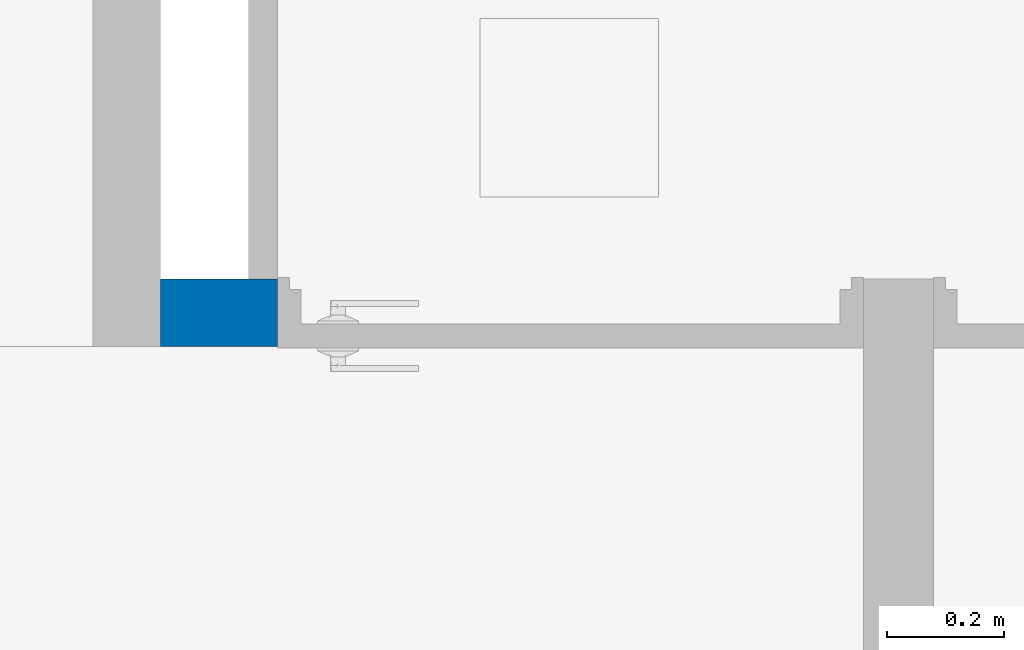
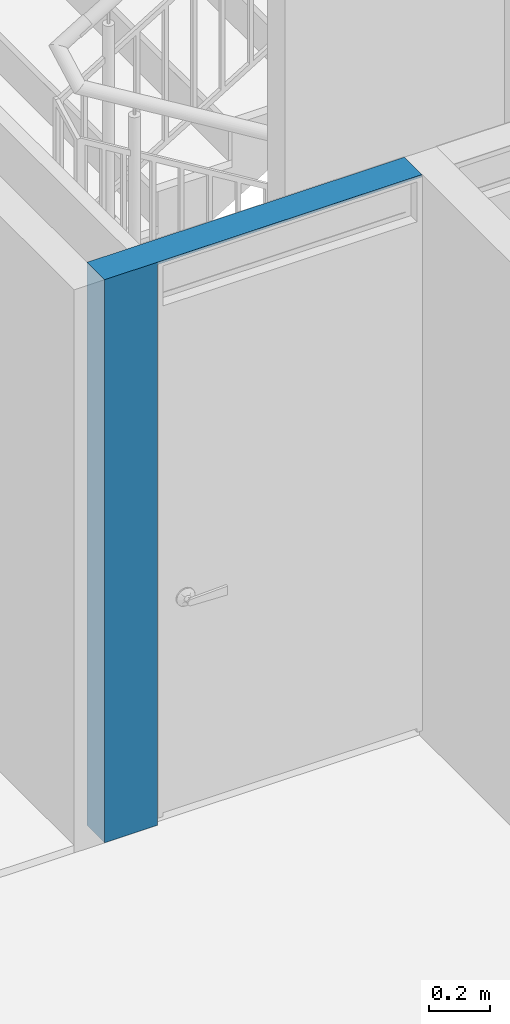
# One storey, part 31 of 51: 1 wall, 1 opening.
"""IFC4 building model written with IfcOpenShell, lengths in metres."""

from ifc_helpers import new_model, entity, si_unit, converted_unit, derived_unit, direction, frame, origin, place, context, subcontext, project, spatial, indexed_curve, outline, extrude, polygons, material, type_object, element, save


model = new_model("IFC4")

# Units and contexts
model_context = context("Model", 3, precision=1e-05, world=origin(), true_north=direction((6.123031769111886e-17, 1.0)))
body_context = subcontext(model_context, "Body", "Model", "MODEL_VIEW")
ifc_project = project(units=[si_unit("LENGTHUNIT", "METRE"), si_unit("AREAUNIT", "SQUARE_METRE"), si_unit("VOLUMEUNIT", "CUBIC_METRE"), converted_unit("PLANEANGLEUNIT", "DEGREE", entity("IfcRatioMeasure", 0.017453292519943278), si_unit("PLANEANGLEUNIT", "RADIAN"), dimensions=[0, 0, 0, 0, 0, 0, 0]), si_unit("MASSUNIT", "GRAM", prefix="KILO"), derived_unit("MASSDENSITYUNIT", [(si_unit("MASSUNIT", "GRAM", prefix="KILO"), 1), (si_unit("LENGTHUNIT", "METRE"), -3)]), derived_unit("IONCONCENTRATIONUNIT", [(si_unit("MASSUNIT", "GRAM", prefix="KILO"), 1), (si_unit("LENGTHUNIT", "METRE"), -3)]), derived_unit("MOMENTOFINERTIAUNIT", [(si_unit("LENGTHUNIT", "METRE"), 4)]), si_unit("TIMEUNIT", "SECOND"), si_unit("FREQUENCYUNIT", "HERTZ"), si_unit("THERMODYNAMICTEMPERATUREUNIT", "DEGREE_CELSIUS"), derived_unit("THERMALTRANSMITTANCEUNIT", [(si_unit("MASSUNIT", "GRAM", prefix="KILO"), 1), (si_unit("THERMODYNAMICTEMPERATUREUNIT", "KELVIN"), -1), (si_unit("TIMEUNIT", "SECOND"), -3)]), derived_unit("THERMALCONDUCTANCEUNIT", [(si_unit("MASSUNIT", "GRAM", prefix="KILO"), 1), (si_unit("THERMODYNAMICTEMPERATUREUNIT", "KELVIN"), -1), (si_unit("TIMEUNIT", "SECOND"), -3), (si_unit("LENGTHUNIT", "METRE"), 1)]), derived_unit("VOLUMETRICFLOWRATEUNIT", [(si_unit("LENGTHUNIT", "METRE"), 3), (si_unit("TIMEUNIT", "SECOND"), -1)]), derived_unit("MASSFLOWRATEUNIT", [(si_unit("MASSUNIT", "GRAM", prefix="KILO"), 1), (si_unit("TIMEUNIT", "SECOND"), -1)]), derived_unit("ROTATIONALFREQUENCYUNIT", [(si_unit("TIMEUNIT", "SECOND"), -1)]), si_unit("ELECTRICCURRENTUNIT", "AMPERE"), si_unit("ELECTRICVOLTAGEUNIT", "VOLT"), si_unit("POWERUNIT", "WATT"), si_unit("FORCEUNIT", "NEWTON", prefix="KILO"), si_unit("ILLUMINANCEUNIT", "LUX"), si_unit("LUMINOUSFLUXUNIT", "LUMEN"), si_unit("LUMINOUSINTENSITYUNIT", "CANDELA"), derived_unit("USERDEFINED", [(si_unit("MASSUNIT", "GRAM", prefix="KILO"), -1), (si_unit("LENGTHUNIT", "METRE"), -2), (si_unit("TIMEUNIT", "SECOND"), 3), (si_unit("LUMINOUSFLUXUNIT", "LUMEN"), 1)]), derived_unit("USERDEFINED", [(si_unit("MASSUNIT", "GRAM", prefix="KILO"), 1), (si_unit("TIMEUNIT", "SECOND"), -3), (si_unit("LENGTHUNIT", "METRE"), 3), (si_unit("ELECTRICCURRENTUNIT", "AMPERE"), -2)]), derived_unit("SOUNDPOWERUNIT", [(si_unit("MASSUNIT", "GRAM", prefix="KILO"), 1), (si_unit("TIMEUNIT", "SECOND"), -3), (si_unit("LENGTHUNIT", "METRE"), 2)]), derived_unit("SOUNDPRESSUREUNIT", [(si_unit("MASSUNIT", "GRAM", prefix="KILO"), 1), (si_unit("LENGTHUNIT", "METRE"), -1), (si_unit("TIMEUNIT", "SECOND"), -2)]), derived_unit("LINEARVELOCITYUNIT", [(si_unit("LENGTHUNIT", "METRE"), 1), (si_unit("TIMEUNIT", "SECOND"), -1)]), si_unit("PRESSUREUNIT", "PASCAL"), derived_unit("USERDEFINED", [(si_unit("MASSUNIT", "GRAM", prefix="KILO"), 1), (si_unit("LENGTHUNIT", "METRE"), -2), (si_unit("TIMEUNIT", "SECOND"), -2)]), derived_unit("LINEARFORCEUNIT", [(si_unit("MASSUNIT", "GRAM", prefix="KILO"), 1), (si_unit("TIMEUNIT", "SECOND"), -2)]), derived_unit("PLANARFORCEUNIT", [(si_unit("MASSUNIT", "GRAM", prefix="KILO"), 1), (si_unit("LENGTHUNIT", "METRE"), -1), (si_unit("TIMEUNIT", "SECOND"), -2)]), derived_unit("SPECIFICHEATCAPACITYUNIT", [(si_unit("THERMODYNAMICTEMPERATUREUNIT", "KELVIN"), -1), (si_unit("LENGTHUNIT", "METRE"), 2), (si_unit("TIMEUNIT", "SECOND"), -2)]), derived_unit("HEATINGVALUEUNIT", [(si_unit("LENGTHUNIT", "METRE"), 2), (si_unit("TIMEUNIT", "SECOND"), -2)]), derived_unit("VAPORPERMEABILITYUNIT", [(si_unit("LENGTHUNIT", "METRE"), -1), (si_unit("TIMEUNIT", "SECOND"), 1)]), derived_unit("DYNAMICVISCOSITYUNIT", [(si_unit("MASSUNIT", "GRAM", prefix="KILO"), 1), (si_unit("TIMEUNIT", "SECOND"), -1), (si_unit("LENGTHUNIT", "METRE"), -1)]), derived_unit("THERMALEXPANSIONCOEFFICIENTUNIT", [(si_unit("THERMODYNAMICTEMPERATUREUNIT", "KELVIN"), -1)]), derived_unit("MODULUSOFELASTICITYUNIT", [(si_unit("MASSUNIT", "GRAM", prefix="KILO"), 1), (si_unit("LENGTHUNIT", "METRE"), -1), (si_unit("TIMEUNIT", "SECOND"), -2)]), derived_unit("ISOTHERMALMOISTURECAPACITYUNIT", [(si_unit("LENGTHUNIT", "METRE"), 3), (si_unit("MASSUNIT", "GRAM", prefix="KILO"), -1)]), derived_unit("MOISTUREDIFFUSIVITYUNIT", [(si_unit("TIMEUNIT", "SECOND"), -1), (si_unit("LENGTHUNIT", "METRE"), 2)])], contexts=[model_context])

# Site, building, storey
site_placement = place(None, origin())
site = spatial("IfcSite", under=ifc_project, at=site_placement, Name="Default", CompositionType="ELEMENT")
building_placement = place(site_placement, origin())
building = spatial("IfcBuilding", under=site, at=building_placement, CompositionType="ELEMENT")
storey_placement = place(building_placement, frame((0.0, 0.0, 2.350000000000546)))
storey = spatial("IfcBuildingStorey", under=building, at=storey_placement, Name="Nivel 2", CompositionType="ELEMENT", Elevation=2.350000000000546)

# Wall, opening
ifc_material = material(Name="LADRILLO CLARO", Category="Materials")
wall_type = type_object("IfcWallType", Name="Basic Wall:B2010 - 0.115m - MI mampostería no estructural - Ladrillo", PredefinedType="STANDARD")
wall_placement = place(storey_placement, frame((8.062500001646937, -9.082499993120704, 0.0)))
wall = element("IfcWall", 1, at=wall_placement, inside=storey, type_object=wall_type, material=ifc_material, Name="Basic Wall:B2010 - 0.115m - MI mampostería no estructural - Ladrillo", ObjectType="Basic Wall:B2010 - 0.115m - MI mampostería no estructural - Ladrillo", PredefinedType="NOTDEFINED", context=body_context, shape_type="Tessellation", body=[
    polygons([(1.199999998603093, -0.057499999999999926, 2.2499999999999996), (3.815772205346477e-17, -0.057499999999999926, 2.2499999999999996), (3.815772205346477e-17, -0.057499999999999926, 0.0), (0.19999999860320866, -0.057499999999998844, 0.0), (0.19999999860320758, -0.057499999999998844, 2.2399999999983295), (1.199999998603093, -0.057499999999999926, 2.2399999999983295), (-1.509021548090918e-15, 0.057499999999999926, 2.2499999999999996), (0.1499999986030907, 0.057499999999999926, 2.2499999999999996), (0.19999999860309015, 0.05750000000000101, 2.2499999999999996), (1.1999999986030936, 0.057499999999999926, 2.2499999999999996), (1.1999999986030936, 0.057499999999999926, 2.2399999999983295), (0.1999999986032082, 0.05750000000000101, 2.2399999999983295), (0.1999999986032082, 0.05750000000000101, 0.0), (0.1499999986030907, 0.057499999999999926, 0.0), (-1.509021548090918e-15, 0.057499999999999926, 0.0)], [[[1, 2, 3, 4, 5, 6]], [[7, 8, 9, 10, 11, 12, 13, 14, 15]], [[3, 15, 14, 13, 4]], [[10, 1, 6, 11]], [[2, 1, 10, 9, 8, 7]], [[3, 2, 7, 15]], [[12, 5, 4, 13]], [[5, 12, 11, 6]]], closed=True),
])
opening_placement = place(wall_placement, frame((1.1999999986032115, 0.057499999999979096, 0.0)))
element("IfcOpeningElement", 2, at=opening_placement, cuts=wall, Name="C1030 - Puerta batiente - Madera + Metal:C1030 - 1.00 x 2.24 - Puerta batiente - Madera:1", PredefinedType="OPENING", context=body_context, shape_type="SweptSolid", body=[
    extrude(outline(indexed_curve([(0.0, 0.999999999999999), (0.0, -5.404556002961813e-30), (2.2399999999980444, -5.404556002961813e-30), (2.2399999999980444, 0.999999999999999), (0.0, 0.999999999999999)], self_intersect=False)), frame((0.0, 0.0, 0.0), z_axis=(0.0, -1.0, 0.0), x_axis=(0.0, 0.0, 1.0)), (0.0, 0.0, 1.0), 0.115),
])

save(model, "model.ifc")
